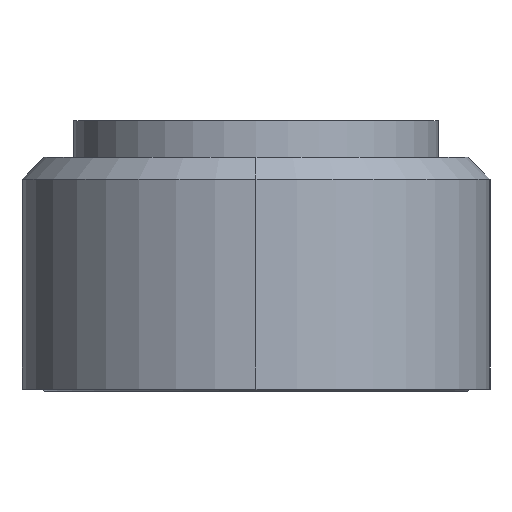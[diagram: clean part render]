
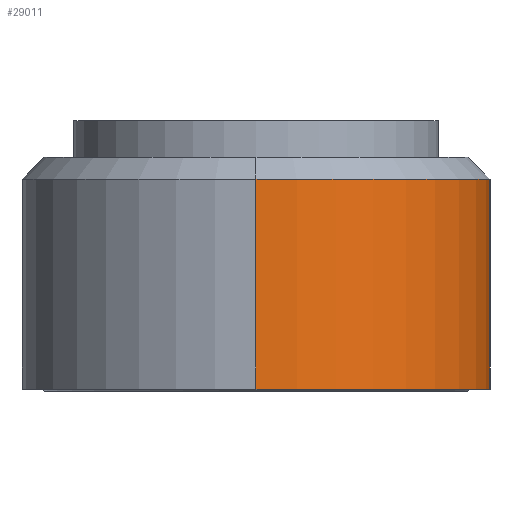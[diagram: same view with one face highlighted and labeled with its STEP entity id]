
A CAD part, left-side view. The second image highlights one B-rep face of the part: STEP entity #29011.
In plain terms, the highlighted cylindrical face has radius 32 mm (diameter 64 mm), a partial arc.
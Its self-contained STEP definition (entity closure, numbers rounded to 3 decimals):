
#210 = CIRCLE ( 'NONE', #14679, 32. ) ;
#421 = VERTEX_POINT ( 'NONE', #10956 ) ;
#576 = EDGE_CURVE ( 'NONE', #30118, #421, #210, .T. ) ;
#1933 = AXIS2_PLACEMENT_3D ( 'NONE', #17033, #22308, #24958 ) ;
#2328 = ORIENTED_EDGE ( 'NONE', *, *, #24043, .T. ) ;
#3413 = DIRECTION ( 'NONE',  ( 1., 0., 0. ) ) ;
#4020 = EDGE_LOOP ( 'NONE', ( #15923, #2328, #20044, #19624 ) ) ;
#4825 = CARTESIAN_POINT ( 'NONE',  ( 0., 0., 28.7 ) ) ;
#4903 = DIRECTION ( 'NONE',  ( 0., 0., -1. ) ) ;
#4921 = CYLINDRICAL_SURFACE ( 'NONE', #1933, 32. ) ;
#6174 = VERTEX_POINT ( 'NONE', #11032 ) ;
#7110 = CARTESIAN_POINT ( 'NONE',  ( 0., -32., 31.7 ) ) ;
#8334 = LINE ( 'NONE', #7110, #28395 ) ;
#8866 = CARTESIAN_POINT ( 'NONE',  ( 0., -32., 28.7 ) ) ;
#10689 = CARTESIAN_POINT ( 'NONE',  ( 0., 0., 0. ) ) ;
#10956 = CARTESIAN_POINT ( 'NONE',  ( -32., 0., 28.7 ) ) ;
#11032 = CARTESIAN_POINT ( 'NONE',  ( -32., 0., 0. ) ) ;
#13299 = DIRECTION ( 'NONE',  ( 1., 0., 0. ) ) ;
#14679 = AXIS2_PLACEMENT_3D ( 'NONE', #4825, #4903, #3413 ) ;
#15235 = DIRECTION ( 'NONE',  ( 0., 0., -1. ) ) ;
#15923 = ORIENTED_EDGE ( 'NONE', *, *, #576, .T. ) ;
#17033 = CARTESIAN_POINT ( 'NONE',  ( 0., 0., 31.7 ) ) ;
#19027 = VECTOR ( 'NONE', #15235, 1000. ) ;
#19624 = ORIENTED_EDGE ( 'NONE', *, *, #25330, .F. ) ;
#20044 = ORIENTED_EDGE ( 'NONE', *, *, #28188, .T. ) ;
#20237 = DIRECTION ( 'NONE',  ( 0., 0., -1. ) ) ;
#22041 = AXIS2_PLACEMENT_3D ( 'NONE', #10689, #28973, #13299 ) ;
#22308 = DIRECTION ( 'NONE',  ( 0., 0., -1. ) ) ;
#24043 = EDGE_CURVE ( 'NONE', #421, #6174, #26027, .T. ) ;
#24958 = DIRECTION ( 'NONE',  ( -1., 0., 0. ) ) ;
#25330 = EDGE_CURVE ( 'NONE', #30118, #31753, #8334, .T. ) ;
#25822 = FACE_OUTER_BOUND ( 'NONE', #4020, .T. ) ;
#26011 = CARTESIAN_POINT ( 'NONE',  ( 0., -32., 0. ) ) ;
#26027 = LINE ( 'NONE', #30910, #19027 ) ;
#28188 = EDGE_CURVE ( 'NONE', #6174, #31753, #28601, .T. ) ;
#28395 = VECTOR ( 'NONE', #20237, 1000. ) ;
#28601 = CIRCLE ( 'NONE', #22041, 32. ) ;
#28973 = DIRECTION ( 'NONE',  ( 0., 0., 1. ) ) ;
#29011 = ADVANCED_FACE ( 'NONE', ( #25822 ), #4921, .T. ) ;
#30118 = VERTEX_POINT ( 'NONE', #8866 ) ;
#30910 = CARTESIAN_POINT ( 'NONE',  ( -32., 0., 31.7 ) ) ;
#31753 = VERTEX_POINT ( 'NONE', #26011 ) ;
